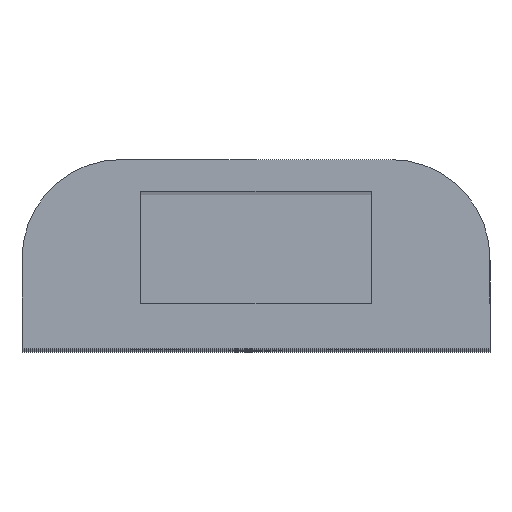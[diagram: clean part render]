
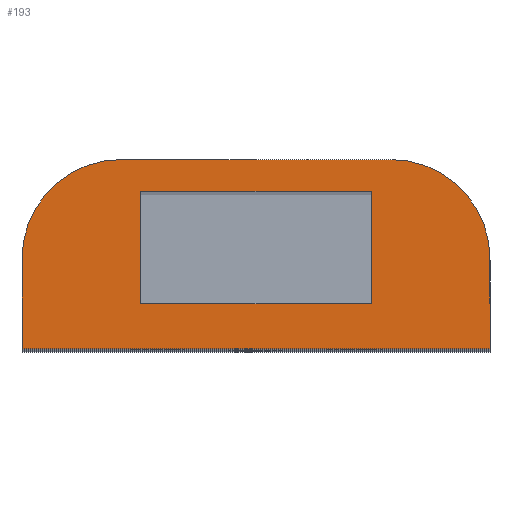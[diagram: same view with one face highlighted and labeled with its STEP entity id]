
A CAD part, top view. The second image highlights one B-rep face of the part: STEP entity #193.
In plain terms, the highlighted planar face has unit normal (0, 0, 1).
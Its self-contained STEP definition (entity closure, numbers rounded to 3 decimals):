
#193=ADVANCED_FACE('',(#802,#804),#806,.F.);
#802=FACE_BOUND('',#803,.T.);
#803=EDGE_LOOP('',(#1326,#1327,#1328,#1329,#1330,#1331));
#804=FACE_BOUND('',#805,.T.);
#805=EDGE_LOOP('',(#1332,#1333,#1334,#1335));
#806=PLANE('',#807);
#807=AXIS2_PLACEMENT_3D('',#808,#809,#810);
#808=CARTESIAN_POINT('',(-52.,45.,266.));
#809=DIRECTION('',(0.,0.,-1.));
#810=DIRECTION('',(1.,0.,0.));
#1326=ORIENTED_EDGE('',*,*,#1532,.F.);
#1327=ORIENTED_EDGE('',*,*,#1536,.F.);
#1328=ORIENTED_EDGE('',*,*,#1611,.F.);
#1329=ORIENTED_EDGE('',*,*,#1612,.F.);
#1330=ORIENTED_EDGE('',*,*,#1543,.F.);
#1331=ORIENTED_EDGE('',*,*,#1540,.F.);
#1332=ORIENTED_EDGE('',*,*,#1613,.F.);
#1333=ORIENTED_EDGE('',*,*,#1614,.F.);
#1334=ORIENTED_EDGE('',*,*,#1615,.F.);
#1335=ORIENTED_EDGE('',*,*,#1616,.F.);
#1532=EDGE_CURVE('',#1709,#1711,#1712,.F.);
#1536=EDGE_CURVE('',#1716,#1709,#1718,.F.);
#1540=EDGE_CURVE('',#1711,#1723,#1724,.F.);
#1543=EDGE_CURVE('',#1723,#1727,#1728,.F.);
#1611=EDGE_CURVE('',#1859,#1716,#1861,.F.);
#1612=EDGE_CURVE('',#1727,#1859,#1862,.F.);
#1613=EDGE_CURVE('',#1863,#1864,#1865,.F.);
#1614=EDGE_CURVE('',#1866,#1863,#1867,.F.);
#1615=EDGE_CURVE('',#1868,#1866,#1869,.F.);
#1616=EDGE_CURVE('',#1864,#1868,#1870,.T.);
#1709=VERTEX_POINT('',#2033);
#1711=VERTEX_POINT('',#2037);
#1712=LINE('',#2038,#2039);
#1716=VERTEX_POINT('',#2048);
#1718=CIRCLE('',#2052,11.);
#1723=VERTEX_POINT('',#2068);
#1724=CIRCLE('',#2069,11.);
#1727=VERTEX_POINT('',#2079);
#1728=LINE('',#2080,#2081);
#1859=VERTEX_POINT('',#2375);
#1861=LINE('',#2379,#2380);
#1862=LINE('',#2382,#2383);
#1863=VERTEX_POINT('',#2385);
#1864=VERTEX_POINT('',#2386);
#1865=LINE('',#2387,#2388);
#1866=VERTEX_POINT('',#2390);
#1867=LINE('',#2391,#2392);
#1868=VERTEX_POINT('',#2394);
#1869=LINE('',#2395,#2396);
#1870=LINE('',#2398,#2399);
#2033=CARTESIAN_POINT('',(-41.,16.,266.));
#2037=CARTESIAN_POINT('',(-11.,16.,266.));
#2038=CARTESIAN_POINT('',(-11.,16.,266.));
#2039=VECTOR('',#2040,1.);
#2040=DIRECTION('',(-1.,0.,0.));
#2048=CARTESIAN_POINT('',(-52.,5.,266.));
#2052=AXIS2_PLACEMENT_3D('',#2053,#2054,#2055);
#2053=CARTESIAN_POINT('',(-41.,5.,266.));
#2054=DIRECTION('',(0.,-0.,1.));
#2055=DIRECTION('',(0.,1.,0.));
#2068=CARTESIAN_POINT('',(0.,5.,266.));
#2069=AXIS2_PLACEMENT_3D('',#2070,#2071,#2072);
#2070=CARTESIAN_POINT('',(-11.,5.,266.));
#2071=DIRECTION('',(0.,0.,1.));
#2072=DIRECTION('',(1.,0.,0.));
#2079=CARTESIAN_POINT('',(0.,-5.,266.));
#2080=CARTESIAN_POINT('',(0.,-5.,266.));
#2081=VECTOR('',#2082,1.);
#2082=DIRECTION('',(0.,1.,0.));
#2375=CARTESIAN_POINT('',(-52.,-5.,266.));
#2379=CARTESIAN_POINT('',(-52.,5.,266.));
#2380=VECTOR('',#2381,1.);
#2381=DIRECTION('',(0.,-1.,0.));
#2382=CARTESIAN_POINT('',(-52.,-5.,266.));
#2383=VECTOR('',#2384,1.);
#2384=DIRECTION('',(1.,0.,0.));
#2385=CARTESIAN_POINT('',(-38.8,12.5,266.));
#2386=CARTESIAN_POINT('',(-38.8,0.,266.));
#2387=CARTESIAN_POINT('',(-38.8,0.,266.));
#2388=VECTOR('',#2389,1.);
#2389=DIRECTION('',(0.,1.,0.));
#2390=CARTESIAN_POINT('',(-13.2,12.5,266.));
#2391=CARTESIAN_POINT('',(-38.8,12.5,266.));
#2392=VECTOR('',#2393,1.);
#2393=DIRECTION('',(1.,0.,0.));
#2394=CARTESIAN_POINT('',(-13.2,0.,266.));
#2395=CARTESIAN_POINT('',(-13.2,12.5,266.));
#2396=VECTOR('',#2397,1.);
#2397=DIRECTION('',(0.,-1.,0.));
#2398=CARTESIAN_POINT('',(-38.8,0.,266.));
#2399=VECTOR('',#2400,1.);
#2400=DIRECTION('',(1.,0.,0.));
